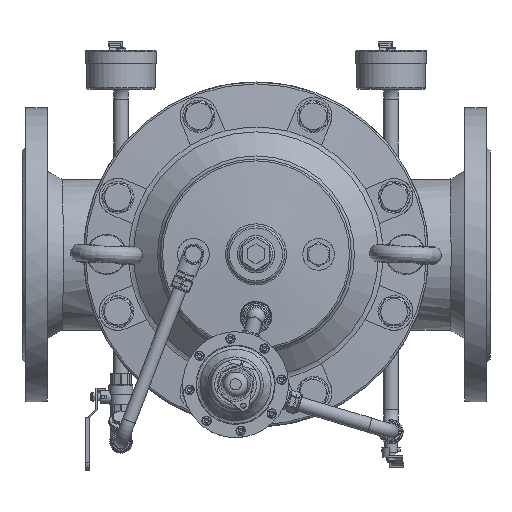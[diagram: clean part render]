
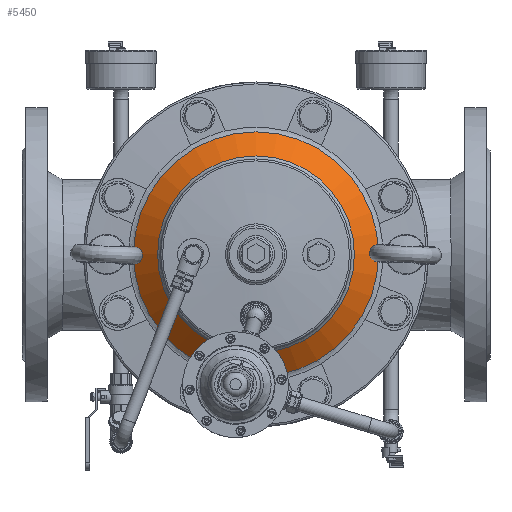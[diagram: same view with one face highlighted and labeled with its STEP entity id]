
A CAD part, top view. The second image highlights one B-rep face of the part: STEP entity #5450.
In plain terms, the highlighted conical face has half-angle 50.258 degrees and reference radius 82.641 mm.
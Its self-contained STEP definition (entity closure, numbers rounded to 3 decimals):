
#5450=ADVANCED_FACE('',(#18673,#18675),#18677,.T.);
#18673=FACE_OUTER_BOUND('',#18674,.T.);
#18674=EDGE_LOOP('',(#42122));
#18675=FACE_OUTER_BOUND('',#18676,.T.);
#18676=EDGE_LOOP('',(#42123));
#18677=CONICAL_SURFACE('',#18678,82.641,0.877);
#18678=AXIS2_PLACEMENT_3D('',#18679,#18680,#18681);
#18679=CARTESIAN_POINT('',(0.,-18.236,0.));
#18680=DIRECTION('',(0.,1.,0.));
#18681=DIRECTION('',(-1.,0.,0.));
#42122=ORIENTED_EDGE('',*,*,#48959,.F.);
#42123=ORIENTED_EDGE('',*,*,#48945,.F.);
#48945=EDGE_CURVE('',#53835,#53835,#53836,.T.);
#48959=EDGE_CURVE('',#53863,#53863,#53864,.F.);
#53835=VERTEX_POINT('',#78209);
#53836=CIRCLE('',#78210,73.618);
#53863=VERTEX_POINT('',#78279);
#53864=CIRCLE('',#78280,91.664);
#78209=CARTESIAN_POINT('',(73.618,-25.738,0.));
#78210=AXIS2_PLACEMENT_3D('',#78211,#78212,#78213);
#78211=CARTESIAN_POINT('',(0.,-25.738,0.));
#78212=DIRECTION('',(0.,-1.,0.));
#78213=DIRECTION('',(1.,0.,0.));
#78279=CARTESIAN_POINT('',(91.664,-10.733,0.));
#78280=AXIS2_PLACEMENT_3D('',#78281,#78282,#78283);
#78281=CARTESIAN_POINT('',(0.,-10.733,0.));
#78282=DIRECTION('',(0.,-1.,0.));
#78283=DIRECTION('',(1.,0.,0.));
